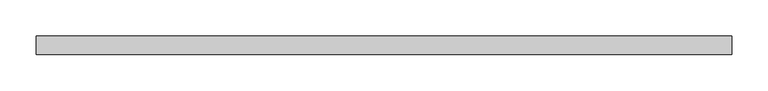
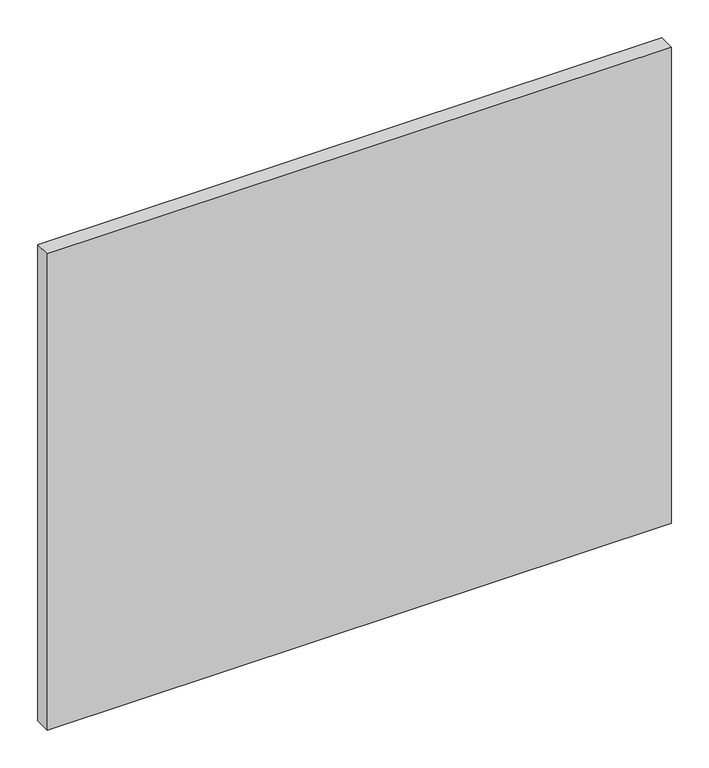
"""IFC4 building model written with IfcOpenShell, lengths in millimetres: plate geometry, 系统嵌板 : 玻璃."""

from ifc_helpers import new_model, si_unit, origin, origin_with_axes, place, context, project, spatial, polyline, outline, extrude, source, transform, mapped, element, save


def plate_28cd468d(model_context):
    return source(origin(), model_context, "Body", "SweptSolid", [
        extrude(outline(polyline([(477.5, -12.5), (-477.5, -12.5), (-477.5, 12.5), (477.5, 12.5), (477.5, -12.5)])), origin_with_axes(), (0.0, 0.0, 1.0), 770.0),
    ])


if __name__ == "__main__":
    model = new_model("IFC4")
    model_context = context("Model", 3, world=origin())
    ifc_project = project(units=[si_unit("LENGTHUNIT", "METRE", prefix="MILLI")], contexts=[model_context])
    site = spatial("IfcSite", under=ifc_project)
    building = spatial("IfcBuilding", under=site)
    placement = place(None, origin())
    plate_shape = plate_28cd468d(model_context)
    element("IfcPlate", 1, ObjectType="系统嵌板 : 玻璃", at=placement, inside=building, context=model_context, shape_type="MappedRepresentation", body=[
        mapped(plate_shape, transform((0.0, 0.0, 0.0), x_axis=(1.0, 0.0, 0.0), y_axis=(0.0, 1.0, 0.0), z_axis=(0.0, 0.0, 1.0))),
    ])
    save(model, "model.ifc")
